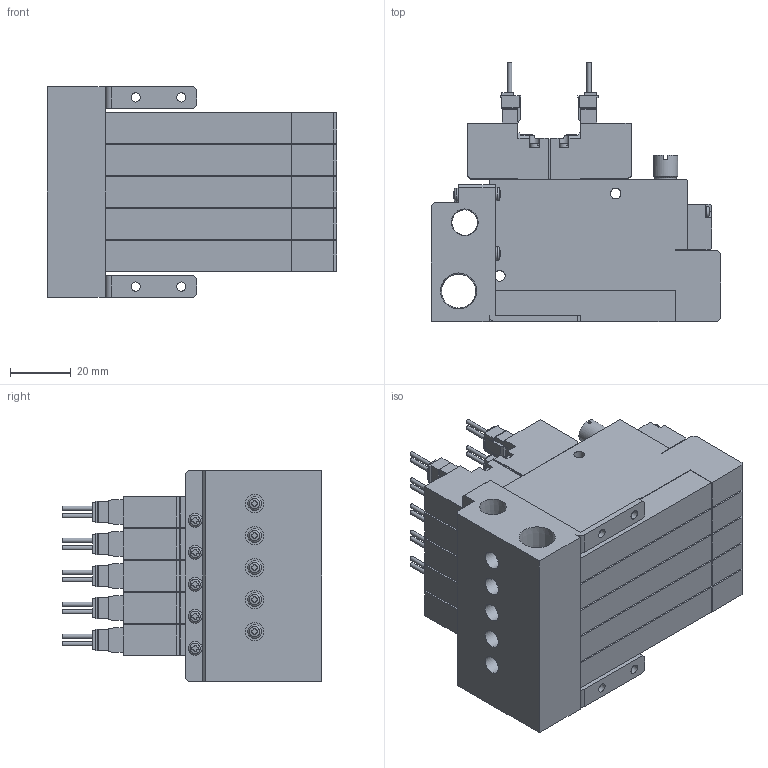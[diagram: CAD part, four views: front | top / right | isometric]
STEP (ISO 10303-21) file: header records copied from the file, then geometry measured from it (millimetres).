
FILE_DESCRIPTION(('STEP AP203'),'1');
FILE_NAME('ZZC5SC505_3D.stp','2024-09-04T22:51:02',(' '),(' '),'Spatial InterOp 3D',' ',' ');
FILE_SCHEMA(('CONFIG_CONTROL_DESIGN'));
Length unit declared in the file: millimetre
Products named in the file (5): BSC1M※※ZZC5SC505; Solenoid valve S; Pressure Sensor ZZ; Unit-C; BaseMC50R
Assembly tree (16 placements, depth 2):
  BSC1M※※ZZC5SC505
    Solenoid valve S  x5
    Pressure Sensor ZZ  x5
    Unit-C  x5
    BaseMC50R
Bounding box: 95 x 85.05 x 69 mm (x, y, z)
Volume: 261468.8 mm3; surface area: 91093.8 mm2
Topology: 16 solids, 16 shells, 1807 faces, 4851 edges, 3210 vertices
Faces by surface type: plane 1382, cylinder 338, cone 39, sphere 24, torus 24
Full cylindrical faces by diameter (mm): 1.4 x20, 2.5 x10, 3 x24, 3.5 x30, 4 x5, 4.134 x10, 4.5 x14, 5.5 x5, 6 x5, 7 x10, 8 x5, 8.422 x1, 11.233 x1
Entity records: 18160 total; most frequent: CARTESIAN_POINT 4123, DIRECTION 2817, ORIENTED_EDGE 2694, EDGE_CURVE 1347, AXIS2_PLACEMENT_3D 957, VERTEX_POINT 954, LINE 903, VECTOR 903
